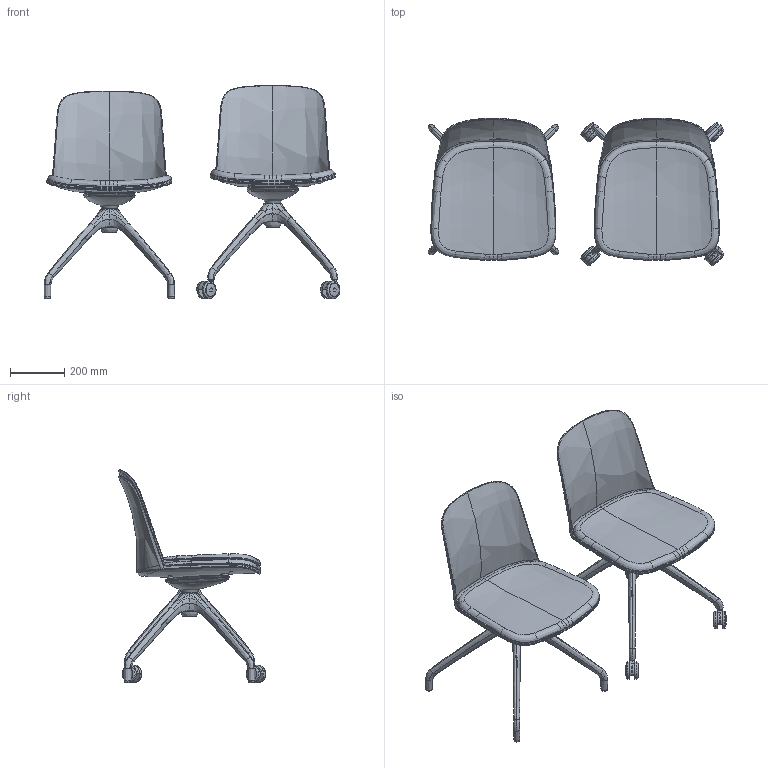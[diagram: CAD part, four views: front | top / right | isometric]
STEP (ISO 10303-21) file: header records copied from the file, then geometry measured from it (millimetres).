
FILE_DESCRIPTION(/* description */ (''),/* implementation_level */ '2;1');
FILE_NAME(/* name */ 'Unix 4GG',/* time_stamp */ '2025-10-22T14:45:44+02:00',/* author */ (''),/* organization */ (''),/* preprocessor_version */ 'ST-DEVELOPER v16.5',/* originating_system */ '',/* authorisation */ '');
FILE_SCHEMA (('AUTOMOTIVE_DESIGN'));
Products named in the file (7): Document; Blocco 03; Blocco 02; Blocco 06; Blocco 05; Blocco 04; Blocco 01
Assembly tree (6 placements, depth 2):
  Document
    Blocco 03
    Blocco 02
    Blocco 06
    Blocco 05
    Blocco 04
    Blocco 01
Bounding box: 1085.91 x 539.98 x 782.9 mm (x, y, z)
Volume: 8844644.3 mm3; surface area: 3122886.4 mm2
Topology: 46 solids, 74 shells, 3162 faces, 7495 edges, 4489 vertices
Faces by surface type: bspline 2596, plane 566
Entity records: 379252 total; most frequent: CARTESIAN_POINT 334944, ORIENTED_EDGE 14832, EDGE_CURVE 7460, B_SPLINE_CURVE_WITH_KNOTS 4898, VERTEX_POINT 4522, EDGE_LOOP 3350, ADVANCED_FACE 3162, FACE_OUTER_BOUND 3162
